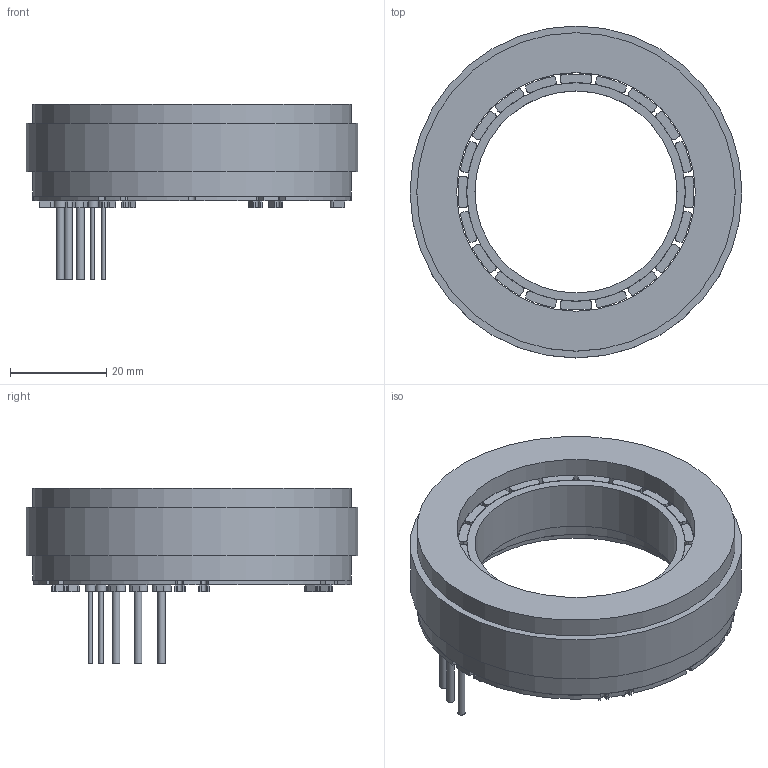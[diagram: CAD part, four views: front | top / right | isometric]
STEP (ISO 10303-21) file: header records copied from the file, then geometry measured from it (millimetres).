
FILE_DESCRIPTION( ('This file contains a STEP AP42 implementation' ,'as created by ZW3D STEP Interface translator.') ,'2;1' );
FILE_NAME( 'FM2-7010.stp' ,'251230.161829', (''), ('ZWCAD Software Co.'), 'Version 1.0', 'ZW3D to STEP translator', '' );
FILE_SCHEMA(('AUTOMOTIVE_DESIGN { 1 0 10303 214 1 1 1 1 }'));
Length unit declared in the file: millimetre
Products named in the file (4): 0; FM2-7010; 7010蛌赽; 7010隅赽
Assembly tree (2 placements, depth 2):
  0
  FM2-7010
    7010蛌赽
    7010隅赽
Bounding box: 69 x 69 x 36.5 mm (x, y, z)
Volume: 38341.9 mm3; surface area: 27842.9 mm2
Topology: 47 solids, 47 shells, 454 faces, 1235 edges, 1024 vertices
Faces by surface type: plane 250, cylinder 204
Full cylindrical faces by diameter (mm): 0.85 x2, 1.56 x3, 2.2 x2, 42 x1, 45.4 x1, 49.6 x3, 50 x1, 66.2 x2, 69 x1
Entity records: 15115 total; most frequent: DIRECTION 2630, CARTESIAN_POINT 2421, ORIENTED_EDGE 2160, EDGE_CURVE 1080, AXIS2_PLACEMENT_3D 934, VECTOR 762, LINE 762, VERTEX_POINT 720
